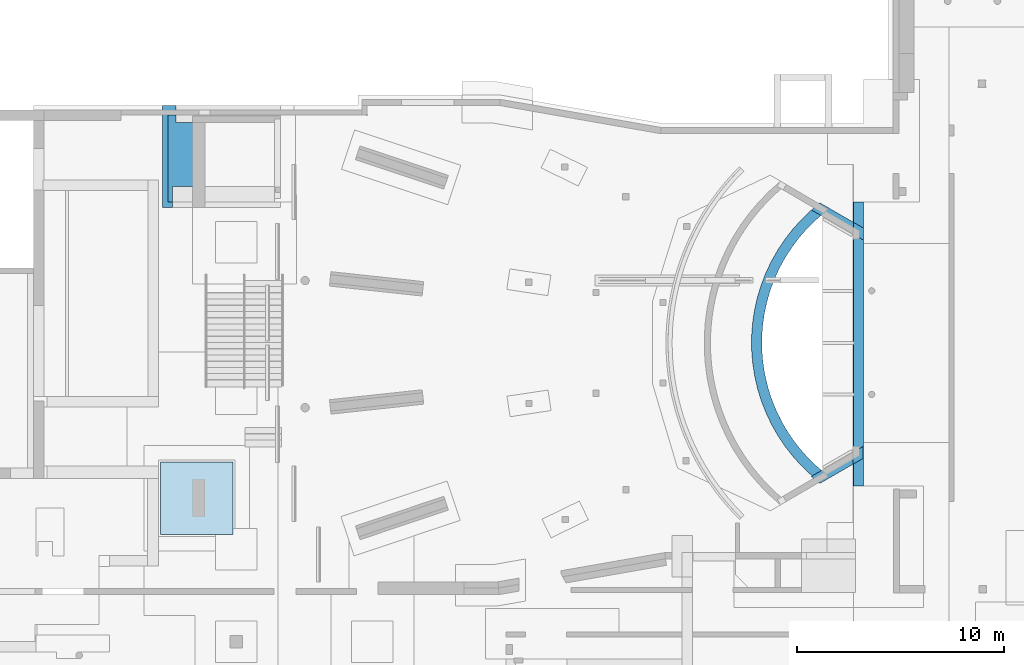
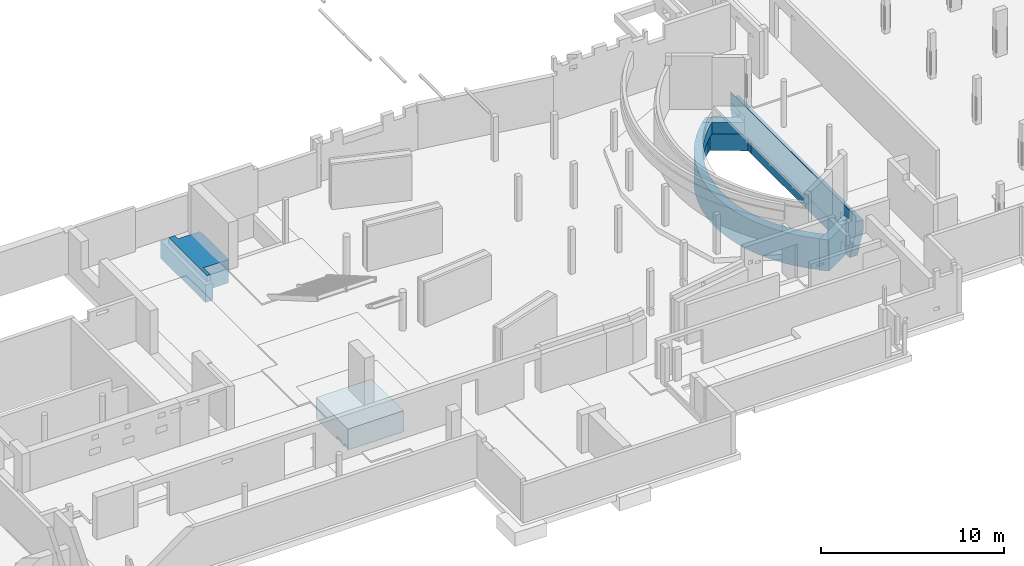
# One storey, part 37 of 42: 6 footings.
"""IFC2X3 building model written with IfcOpenShell, lengths in millimetres."""

import ifcopenshell
import ifcopenshell.guid

model = None  # the IFC model being written
_history = None  # IfcOwnerHistory: only IFC2X3 demands one
_inside = {}  # id of a spatial element -> (the spatial element, [elements in it])
_under = {}  # id of a project, library or spatial element -> (it, [spatial elements below it])
_declared = {}  # id of a project -> (the project, [libraries it declares])
_typed = {}  # id of a type object -> (the type object, [elements of that type])
_made_of = {}  # id of a material, layer set ... -> (it, [elements and type objects made of it])


def new_model(schema):
    """Start an empty IFC model of exactly this schema.

    Asked for "IFC4X3", IfcOpenShell would pick the latest addendum, in which some entities
    have other attributes; the version numbers below select the first issue.
    IFC2X3 requires an IfcOwnerHistory on every rooted entity: one is made here for all.
    """
    global model, _history
    if schema == "IFC4X3":
        model = ifcopenshell.file(schema_version=(4, 3, 0, 0))
    else:
        model = ifcopenshell.file(schema=schema)
    _inside.clear()
    _under.clear()
    _declared.clear()
    _typed.clear()
    _made_of.clear()
    _history = None
    if model.schema == "IFC2X3":
        org = make("IfcOrganization", Name="unknown")
        user = make(
            "IfcPersonAndOrganization",
            ThePerson=make("IfcPerson", FamilyName="unknown"),
            TheOrganization=org,
        )
        app = make(
            "IfcApplication",
            ApplicationDeveloper=org,
            Version="unknown",
            ApplicationFullName="unknown",
            ApplicationIdentifier="unknown",
        )
        _history = make(
            "IfcOwnerHistory",
            OwningUser=user,
            OwningApplication=app,
            ChangeAction="ADDED",
            CreationDate=0,
        )
    return model


def make(cls, **values):
    """One entity of the class cls with the attributes given. An attribute that is None is left unset."""
    return model.create_entity(
        cls, **{name: value for name, value in values.items() if value is not None}
    )


def entity(cls, *values):
    """Any entity or typed value of the class cls, its attributes in the order of the schema. None: left unset."""
    e = model.create_entity(cls)
    for i, value in enumerate(values):
        if value is not None:
            e[i] = value
    return e


def rooted(cls, **values):
    """An entity with a GlobalId (a new one), such as an element, a storey or a relation."""
    return make(cls, GlobalId=ifcopenshell.guid.new(), OwnerHistory=_history, **values)


def si_unit(unit_type, name, prefix=None):
    """IfcSIUnit, for example si_unit("LENGTHUNIT", "METRE", prefix="MILLI")."""
    return make("IfcSIUnit", UnitType=unit_type, Prefix=prefix, Name=name)


def converted_unit(unit_type, name, factor, base, dimensions=None, offset=None):
    """IfcConversionBasedUnit, such as the inch: factor (a typed value) times the base unit."""
    return make(
        "IfcConversionBasedUnit"
        if offset is None
        else "IfcConversionBasedUnitWithOffset",
        ConversionOffset=offset,
        Dimensions=None
        if dimensions is None
        else entity("IfcDimensionalExponents", *dimensions),
        UnitType=unit_type,
        Name=name,
        ConversionFactor=make(
            "IfcMeasureWithUnit", ValueComponent=factor, UnitComponent=base
        ),
    )


def derived_unit(unit_type, elements):
    """IfcDerivedUnit: a product of units, each with its exponent."""
    return make(
        "IfcDerivedUnit",
        Elements=[
            make("IfcDerivedUnitElement", Unit=unit, Exponent=power)
            for unit, power in elements
        ],
        UnitType=unit_type,
    )


def assignment(units):
    """IfcUnitAssignment: the units of a project."""
    return None if units is None else make("IfcUnitAssignment", Units=units)


def point(xyz):
    """IfcCartesianPoint."""
    return None if xyz is None else make("IfcCartesianPoint", Coordinates=xyz)


def direction(xyz):
    """IfcDirection."""
    return None if xyz is None else make("IfcDirection", DirectionRatios=xyz)


def frame(location, z_axis=None, x_axis=None):
    """IfcAxis2Placement3D, a coordinate frame: its origin and axes. An axis left out is left unset."""
    return make(
        "IfcAxis2Placement3D",
        Location=point(location),
        Axis=direction(z_axis),
        RefDirection=direction(x_axis),
    )


def origin():
    """The frame at (0, 0, 0) with its axes left unset."""
    return frame((0.0, 0.0, 0.0))


def place(relative_to, where):
    """IfcLocalPlacement: puts the frame where relative to a parent placement (None: the world)."""
    return make(
        "IfcLocalPlacement", PlacementRelTo=relative_to, RelativePlacement=where
    )


def context(
    kind, dimensions, precision=None, world=None, true_north=None, identifier=None
):
    """IfcGeometricRepresentationContext, for example the 3D "Model" context."""
    return make(
        "IfcGeometricRepresentationContext",
        ContextIdentifier=identifier,
        ContextType=kind,
        CoordinateSpaceDimension=dimensions,
        Precision=precision,
        WorldCoordinateSystem=world,
        TrueNorth=true_north,
    )


def subcontext(parent, identifier, kind, view, scale=None):
    """IfcGeometricRepresentationSubContext, for example "Body" below "Model"."""
    return make(
        "IfcGeometricRepresentationSubContext",
        ContextIdentifier=identifier,
        ContextType=kind,
        ParentContext=parent,
        TargetScale=scale,
        TargetView=view,
    )


def project(units=None, contexts=None):
    """IfcProject with its units and contexts."""
    return rooted(
        "IfcProject",
        Name="project",
        RepresentationContexts=contexts,
        UnitsInContext=assignment(units),
    )


def spatial(cls, under=None, at=None, **own):
    """A site, building, storey or space (cls), placed at a placement, below another one or the project."""
    s = rooted(cls, ObjectPlacement=at, **own)
    if under is not None:
        _under.setdefault(under.id(), (under, []))[1].append(s)
    return s


def faces_of(points, faces, orient=None, outer=None):
    """IfcFace entities. A face is a list of loops; a loop is a list of indices into points, from 0.

    orient and outer hold one flag for each loop. By default every Orientation is true, the
    first loop of a face is its IfcFaceOuterBound and the others are IfcFaceBound.
    """
    made = []
    for i, loops in enumerate(faces):
        bounds = []
        for j, loop in enumerate(loops):
            is_outer = j == 0 if outer is None else outer[i][j]
            bounds.append(
                make(
                    "IfcFaceOuterBound" if is_outer else "IfcFaceBound",
                    Bound=make("IfcPolyLoop", Polygon=[points[k] for k in loop]),
                    Orientation=True if orient is None else orient[i][j],
                )
            )
        made.append(make("IfcFace", Bounds=bounds))
    return made


def faceted_brep(points, faces, orient=None, outer=None, voids=None):
    """IfcFacetedBrep: a solid bounded by flat faces; with voids (closed shells), ...WithVoids."""
    shared = [point(p) for p in points]
    hull = make("IfcClosedShell", CfsFaces=faces_of(shared, faces, orient, outer))
    if voids is None:
        return make("IfcFacetedBrep", Outer=hull)
    return make(
        "IfcFacetedBrepWithVoids",
        Outer=hull,
        Voids=[
            make(cls, CfsFaces=faces_of(shared, fs, o, b)) for cls, fs, o, b in voids
        ],
    )


def shape(context_of_items, identifier, shape_type, items):
    """IfcShapeRepresentation: the items that make up one representation, for example the "Body"."""
    return make(
        "IfcShapeRepresentation",
        ContextOfItems=context_of_items,
        RepresentationIdentifier=identifier,
        RepresentationType=shape_type,
        Items=items,
    )


def source(mapping_origin, context_of_items, identifier, shape_type, items):
    """IfcRepresentationMap: a shape defined once, which mapped items show again and again."""
    return make(
        "IfcRepresentationMap",
        MappingOrigin=mapping_origin,
        MappedRepresentation=shape(context_of_items, identifier, shape_type, items),
    )


def transform(
    local_origin,
    x_axis=None,
    y_axis=None,
    z_axis=None,
    scale=None,
    scale2=None,
    scale3=None,
    uniform=True,
):
    """IfcCartesianTransformationOperator3D, or its non-uniform kind. x_axis, y_axis, z_axis: its Axis1, 2, 3."""
    if uniform:
        return make(
            "IfcCartesianTransformationOperator3D",
            Axis1=direction(x_axis),
            Axis2=direction(y_axis),
            LocalOrigin=point(local_origin),
            Scale=scale,
            Axis3=direction(z_axis),
        )
    return make(
        "IfcCartesianTransformationOperator3DnonUniform",
        Axis1=direction(x_axis),
        Axis2=direction(y_axis),
        LocalOrigin=point(local_origin),
        Scale=scale,
        Axis3=direction(z_axis),
        Scale2=scale2,
        Scale3=scale3,
    )


def mapped(mapping_source, mapping_target):
    """IfcMappedItem: shows the shape of a source again, moved by a transform."""
    return make(
        "IfcMappedItem", MappingSource=mapping_source, MappingTarget=mapping_target
    )


def material(Name=None, Category=None):
    """IfcMaterial."""
    return make("IfcMaterial", Name=Name, Category=Category)


def made_of(thing, what):
    """Note that an element or type object is made of a material, layer set ...; save() writes the relation."""
    if what is not None:
        _made_of.setdefault(what.id(), (what, []))[1].append(thing)
    return thing


def type_object(cls, material=None, **own):
    """A type object (cls), such as IfcWallType, which elements share."""
    return made_of(rooted(cls, **own), material)


def type_shapes(of_type, sources):
    """Give a type object the sources (RepresentationMaps) that its elements show as mapped items."""
    of_type.RepresentationMaps = sources


def element(
    cls,
    number,
    at=None,
    inside=None,
    cuts=None,
    type_object=None,
    material=None,
    context=None,
    identifier="Body",
    shape_type=None,
    held_by="IfcProductDefinitionShape",
    body=None,
    shapes=None,
    **own,
):
    """One element of the class cls, such as IfcWall. Its Tag is "e" and its number.

    at: its placement. inside: the storey or other place that contains it. cuts: it is an
    opening in that element (IfcRelVoidsElement). A single representation is given by context,
    identifier, shape_type and body (its items); several are given by shapes. held_by: the class
    of the entity that holds the representations. save() writes the other relations.
    """
    e = rooted(cls, Tag="e%d" % number, ObjectPlacement=at, **own)
    if body is not None:
        shapes = [shape(context, identifier, shape_type, body)]
    if shapes is not None:
        e.Representation = make(held_by, Representations=shapes)
    if inside is not None:
        _inside.setdefault(inside.id(), (inside, []))[1].append(e)
    if cuts is not None:
        rooted(
            "IfcRelVoidsElement", RelatingBuildingElement=cuts, RelatedOpeningElement=e
        )
    if type_object is not None:
        _typed.setdefault(type_object.id(), (type_object, []))[1].append(e)
    return made_of(e, material)


def aggregate(whole, parts):
    """IfcRelAggregates: a whole, such as a stair, and the parts it consists of."""
    return rooted("IfcRelAggregates", RelatingObject=whole, RelatedObjects=parts)


def save(model, path):
    """Write the relations noted so far, then the file.

    IfcRelAggregates (storeys below a building ...), IfcRelContainedInSpatialStructure (elements
    in a storey), IfcRelDefinesByType, IfcRelAssociatesMaterial and IfcRelDeclares: one each for
    every whole, place, type object, material and project.
    """
    for whole, parts in _under.values():
        aggregate(whole, parts)
    for where, things in _inside.values():
        rooted(
            "IfcRelContainedInSpatialStructure",
            RelatedElements=things,
            RelatingStructure=where,
        )
    for kind, things in _typed.values():
        rooted("IfcRelDefinesByType", RelatedObjects=things, RelatingType=kind)
    for what, things in _made_of.values():
        rooted("IfcRelAssociatesMaterial", RelatedObjects=things, RelatingMaterial=what)
    for by, libraries in _declared.values():
        rooted("IfcRelDeclares", RelatingContext=by, RelatedDefinitions=libraries)
    model.write(path)


model = new_model("IFC2X3")

# Units and contexts
model_context = context("Model", 3, precision=0.01, world=origin(), true_north=direction((6.12303176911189e-17, 1.0)))
body_context = subcontext(model_context, "Body", "Model", "MODEL_VIEW")
ifc_project = project(units=[si_unit("LENGTHUNIT", "METRE", prefix="MILLI"), si_unit("AREAUNIT", "SQUARE_METRE", prefix="MILLI"), si_unit("VOLUMEUNIT", "CUBIC_METRE"), converted_unit("PLANEANGLEUNIT", "DEGREE", entity("IfcRatioMeasure", 0.0174532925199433), si_unit("PLANEANGLEUNIT", "RADIAN"), dimensions=[0, 0, 0, 0, 0, 0, 0]), si_unit("MASSUNIT", "GRAM", prefix="KILO"), derived_unit("MASSDENSITYUNIT", [(si_unit("MASSUNIT", "GRAM", prefix="KILO"), 1), (si_unit("LENGTHUNIT", "METRE"), -3)]), derived_unit("MOMENTOFINERTIAUNIT", [(si_unit("LENGTHUNIT", "METRE"), 4)]), si_unit("TIMEUNIT", "SECOND"), si_unit("FREQUENCYUNIT", "HERTZ"), si_unit("THERMODYNAMICTEMPERATUREUNIT", "DEGREE_CELSIUS"), derived_unit("THERMALTRANSMITTANCEUNIT", [(si_unit("MASSUNIT", "GRAM", prefix="KILO"), 1), (si_unit("THERMODYNAMICTEMPERATUREUNIT", "KELVIN"), -1), (si_unit("TIMEUNIT", "SECOND"), -3)]), derived_unit("VOLUMETRICFLOWRATEUNIT", [(si_unit("LENGTHUNIT", "METRE"), 3), (si_unit("TIMEUNIT", "SECOND"), -1)]), si_unit("ELECTRICCURRENTUNIT", "AMPERE"), si_unit("ELECTRICVOLTAGEUNIT", "VOLT"), si_unit("POWERUNIT", "WATT"), si_unit("FORCEUNIT", "NEWTON", prefix="KILO"), si_unit("ILLUMINANCEUNIT", "LUX"), si_unit("LUMINOUSFLUXUNIT", "LUMEN"), si_unit("LUMINOUSINTENSITYUNIT", "CANDELA"), derived_unit("USERDEFINED", [(si_unit("MASSUNIT", "GRAM", prefix="KILO"), -1), (si_unit("LENGTHUNIT", "METRE"), -2), (si_unit("TIMEUNIT", "SECOND"), 3), (si_unit("LUMINOUSFLUXUNIT", "LUMEN"), 1)]), derived_unit("LINEARVELOCITYUNIT", [(si_unit("LENGTHUNIT", "METRE"), 1), (si_unit("TIMEUNIT", "SECOND"), -1)]), si_unit("PRESSUREUNIT", "PASCAL"), derived_unit("USERDEFINED", [(si_unit("LENGTHUNIT", "METRE"), -2), (si_unit("MASSUNIT", "GRAM", prefix="KILO"), 1), (si_unit("TIMEUNIT", "SECOND"), -2)]), derived_unit("LINEARFORCEUNIT", [(si_unit("MASSUNIT", "GRAM", prefix="KILO"), 1), (si_unit("LENGTHUNIT", "METRE"), 1), (si_unit("TIMEUNIT", "SECOND"), -2), (si_unit("LENGTHUNIT", "METRE"), -1)]), derived_unit("PLANARFORCEUNIT", [(si_unit("MASSUNIT", "GRAM", prefix="KILO"), 1), (si_unit("LENGTHUNIT", "METRE"), 1), (si_unit("TIMEUNIT", "SECOND"), -2), (si_unit("LENGTHUNIT", "METRE"), -2)])], contexts=[model_context])

# Site, building, storey
site_placement = place(None, origin())
site = spatial("IfcSite", under=ifc_project, at=site_placement, Name="Theater aan de Parade", CompositionType="ELEMENT")
building_placement = place(site_placement, origin())
building = spatial("IfcBuilding", under=site, at=building_placement, Name="Theater aan de Parade", CompositionType="ELEMENT")
storey_placement = place(building_placement, frame((0.0, 0.0, -3300.0)))
storey = spatial("IfcBuildingStorey", under=building, at=storey_placement, Name="-1 kelder", CompositionType="ELEMENT", Elevation=-3300.0)

# Footings
ifc_material_1 = material(Name="00_PBT_MAT_beton t.p.g.")
type_product_1 = type_object("IfcTypeProduct", Name="16_PBT_SF_funderingsbalk:500x2480_bestaand", material=ifc_material_1)
shared_shape_1 = source(origin(), body_context, "Body", "Brep", [
    faceted_brep([(3148.72475501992, 470.968927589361, 1300.0), (3143.46430816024, 475.724543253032, 2080.0), (3383.77947811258, 266.795313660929, 2080.0), (2493.44082151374, 1135.98972810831, 1300.0), (2474.80814543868, 1157.31628978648, 2080.0), (2688.62088003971, 921.335531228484, 2080.0), (2703.21451569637, 905.898117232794, 1300.0), (2911.6232041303, 694.019083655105, 2080.0), (2921.75208095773, 684.113302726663, 1300.0), (1919.78917757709, 1872.58544791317, 1300.0), (1891.79557791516, 1913.46754383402, 2080.0), (2076.08187211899, 1653.77278906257, 2080.0), (2101.43336646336, 1619.69714143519, 1300.0), (2270.5213535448, 1401.59013313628, 2080.0), (1435.52696944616, 2670.79545566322, 1300.0), (1402.67229286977, 2733.48387593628, 2080.0), (1554.82574119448, 2453.74805046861, 2080.0), (1586.58541313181, 2398.53011458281, 1300.0), (1717.95237549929, 2180.26586628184, 2080.0), (1748.0871142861, 2132.32665565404, 1300.0), (2292.74649156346, 1374.04207980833, 1300.0), (1165.63256159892, 3231.86533988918, 1300.0), (1132.2247383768, 3309.94707248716, 2080.0), (1261.73138624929, 3019.03328449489, 2080.0), (844.267039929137, 4108.43413783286, 1300.0), (814.25581151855, 4210.26042595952, 2080.0), (908.310829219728, 3906.02949799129, 2080.0), (940.026942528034, 3812.16219354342, 1300.0), (1014.35607882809, 3605.76759743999, 2080.0), (1047.20251300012, 3519.82603705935, 1300.0), (626.834429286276, 5016.38322243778, 1300.0), (605.416071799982, 5141.95476210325, 2080.0), (662.689216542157, 4828.70950550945, 2080.0), (687.552936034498, 4710.99777767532, 1300.0), (732.338985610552, 4517.98178940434, 2080.0), (516.27490398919, 5943.43498226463, 1300.0), (508.659190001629, 6091.85290333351, 2080.0), (528.340433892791, 5774.0236212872, 2080.0), (541.130965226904, 5633.06556708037, 1300.0), (560.609648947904, 5457.22478661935, 2080.0), (578.002625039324, 5323.89331638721, 1300.0), (760.066826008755, 4408.19627916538, 1300.0), (1295.13897205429, 2948.71319303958, 1300.0), (3383.77947811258, 266.795313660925, 1300.0), (503.47182427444, 6254.53476920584, 1300.0), (501.596878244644, 6410.21264896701, 2080.0), (502.740981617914, 6565.89703672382, 1300.0), (507.164608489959, 6728.60203991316, 2080.0), (572.902103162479, 7496.87811477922, 1300.0), (599.461235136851, 7678.94392870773, 2080.0), (556.135305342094, 7363.4670393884, 2080.0), (537.482246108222, 7187.53617925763, 1300.0), (525.353622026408, 7046.52021126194, 2080.0), (514.083475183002, 6877.05349887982, 1300.0), (750.665594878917, 8413.41975051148, 1300.0), (803.924940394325, 8611.60837325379, 2080.0), (723.453580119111, 8303.50585125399, 2080.0), (679.573993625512, 8110.28117680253, 1300.0), (655.263254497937, 7992.45459602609, 2080.0), (1033.62769741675, 9303.12814383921, 1300.0), (1117.66394479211, 9513.40447548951, 2080.0), (1001.18527988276, 9217.03388904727, 2080.0), (927.825669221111, 9010.29207967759, 1300.0), (896.550744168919, 8916.27747960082, 2080.0), (833.457659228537, 8713.57386125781, 1300.0), (620.289775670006, 7804.61405799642, 1300.0), (1417.96213011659, 10153.9723348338, 1300.0), (1536.2409619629, 10371.5779157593, 2080.0), (1385.4023782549, 10091.13090552, 2080.0), (1278.88035527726, 9875.39861699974, 1300.0), (1245.80350390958, 9804.92301225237, 2080.0), (1898.47182908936, 10954.4468871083, 1300.0), (2053.73595625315, 11173.9913402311, 2080.0), (1870.67080019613, 10913.4343358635, 2080.0), (1727.99100561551, 10693.9024962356, 1300.0), (1698.08196775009, 10645.8228660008, 2080.0), (1567.7407682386, 10426.9438105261, 1300.0), (2468.65922076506, 11693.7274653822, 1300.0), (2662.82987121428, 11909.2960224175, 2080.0), (2450.12727743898, 11672.3141444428, 2080.0), (2269.08463398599, 11454.7355884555, 1300.0), (2246.98945235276, 11427.0839915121, 2080.0), (3120.81407425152, 12361.8171976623, 1300.0), (3354.90814478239, 12567.0923709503, 2080.0), (3115.57641734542, 12357.037311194, 2080.0), (2894.84443241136, 12147.6095935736, 1300.0), (2884.76262684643, 12137.656824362, 2080.0), (2677.35044263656, 11924.8013120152, 1300.0), (2078.92683883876, 11208.1851251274, 1300.0), (1150.70461983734, 9591.64163040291, 1300.0), (3354.90814478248, 12567.0923709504, 1300.0), (420.858053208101, 7825.07288220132, 0.0), (373.252061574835, 7512.79231410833, 0.0), (337.666993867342, 7198.91466810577, 0.0), (314.155289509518, 6883.90249900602, 0.0), (302.751596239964, 6568.22003341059, 0.0), (303.472719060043, 6252.3324856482, 0.0), (316.317595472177, 5936.70537225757, 0.0), (341.267297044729, 5621.80382602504, 0.0), (378.285057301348, 5308.09191058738, 0.0), (427.316325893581, 4996.03193660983, 0.0), (488.288848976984, 4686.0837805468, 0.0), (561.112775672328, 4378.70420698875, 0.0), (645.680790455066, 4074.34619559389, 0.0), (741.868271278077, 3773.45827359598, 0.0), (849.533473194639, 3476.48385487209, 0.0), (968.517737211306, 3183.8605865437, 0.0), (1098.64572406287, 2896.01970407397, 0.0), (1239.7256725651, 2613.38539581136, 0.0), (1391.54968216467, 2336.37417791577, 0.0), (1553.89401927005, 2065.39428058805, 0.0), (1726.51944691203, 1800.84504650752, 0.0), (1909.17157724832, 1543.11634236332, 0.0), (2101.58124639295, 1292.58798434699, 0.0), (2303.46491101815, 1049.62917845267, 0.0), (2514.52506614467, 814.597976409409, 0.0), (2734.45068350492, 587.84074804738, 0.0), (2962.91766982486, 369.691670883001, 0.0), (3199.58934022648, 160.472241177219, 0.0), (2924.3567859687, 1.5952722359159, 0.0), (2464.30490748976, 433.841222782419, 0.0), (2037.48445870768, 898.930696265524, 0.0), (1646.2336665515, 1394.31571566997, 0.0), (1292.69585096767, 1917.28238975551, 0.0), (978.807731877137, 2464.96573883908, 0.0), (706.288820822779, 3034.36538907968, 0.0), (476.63200239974, 3622.3620083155, 0.0), (291.095357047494, 4225.73439343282, 0.0), (150.695269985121, 4841.17711567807, 0.0), (56.2008640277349, 5465.31862726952, 0.0), (8.12978677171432, 6094.73973013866, 0.0), (6.74537521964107, 6725.99230564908, 0.0), (52.0552133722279, 7355.61820271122, 0.0), (143.811090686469, 7980.16818084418, 0.0), (281.510361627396, 8596.2208044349, 0.0), (464.398698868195, 9200.40118471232, 0.0), (691.474225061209, 9789.39946678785, 0.0), (961.493000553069, 10359.9889605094, 0.0), (1272.97583699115, 10909.043815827, 0.0), (1624.21639950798, 11433.5561458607, 0.0), (2013.2905531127, 11930.6525038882, 0.0), (2438.06690210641, 12397.6096240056, 0.0), (2896.21842677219, 12831.8693057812, 0.0), (3171.02388846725, 12673.2388744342, 0.0), (2935.31003131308, 12462.9411218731, 0.0), (2707.84149736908, 12243.7512436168, 0.0), (2488.95353990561, 12015.9923034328, 0.0), (2278.96872284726, 11779.9999543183, 0.0), (2078.19648988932, 11536.1219820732, 0.0), (1886.93270827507, 11284.7177925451, 0.0), (1705.45923284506, 11026.1578820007, 0.0), (1534.04349073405, 10760.8232911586, 0.0), (1372.9380873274, 10489.1050436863, 0.0), (1222.38043405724, 10211.4035699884, 0.0), (1082.59239858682, 9928.12811713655, 0.0), (953.77997789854, 9639.6961458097, 0.0), (836.132994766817, 9346.53271513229, 0.0), (729.82481806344, 9049.06985631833, 0.0), (635.012107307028, 8747.74593604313, 0.0), (551.834581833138, 8443.00501048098, 0.0), (480.414814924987, 8135.29617096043, 0.0), (1646.23185683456, 1394.31819010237, 2080.0), (2037.4829122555, 898.932511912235, 2080.0), (1292.6940335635, 1917.2853051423, 2080.0), (2924.35678596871, 1.5952722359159, 2080.0), (2464.30395360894, 433.842187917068, 2080.0), (978.806090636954, 2464.96886534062, 2080.0), (291.094701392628, 4225.73684520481, 2080.0), (150.694915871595, 4841.1789844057, 2080.0), (56.200731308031, 5465.31979426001, 2080.0), (706.287471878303, 3034.36849807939, 2080.0), (476.63100006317, 3622.36488445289, 2080.0), (8.12977140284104, 6094.74012190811, 2080.0), (6.74536098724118, 6725.99189710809, 2080.0), (281.509712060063, 8596.2183320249, 2080.0), (143.810741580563, 7980.1662933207, 2080.0), (464.397702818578, 9200.39828575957, 2080.0), (52.0550839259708, 7355.61701825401, 2080.0), (691.472881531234, 9789.39633269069, 2080.0), (1624.21458494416, 11433.5536418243, 2080.0), (2013.2889957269, 11930.6506590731, 2080.0), (2438.0659299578, 12397.6086317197, 2080.0), (961.4913626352, 10359.9858068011, 2080.0), (1272.97401950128, 10909.0408716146, 2080.0), (2896.21842677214, 12831.8693057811, 2080.0), (1726.51954515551, 1800.8449020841, 1300.0), (1553.89412030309, 2065.39411906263, 1300.0), (1391.54978429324, 2336.37399977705, 1300.0), (1239.72577417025, 2613.3852016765, 1300.0), (1098.64582360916, 2896.0194946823, 1300.0), (968.517833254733, 3183.86036274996, 1300.0), (849.533564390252, 3476.48361763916, 1300.0), (741.868356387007, 3773.45802398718, 1300.0), (645.680868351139, 4074.34593476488, 1300.0), (561.112845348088, 4378.70393617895, 1300.0), (488.288909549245, 4686.08350107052, 1300.0), (427.316376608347, 4996.03164984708, 1300.0), (378.28509753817, 5308.09161797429, 1300.0), (341.267326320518, 5621.80352904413, 1300.0), (316.317613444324, 5936.70507242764, 1300.0), (303.472725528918, 6252.33218451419, 1300.0), (302.751591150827, 6568.21973253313, 1300.0), (314.15527295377, 6883.90219995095, 1300.0), (337.666966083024, 7198.91437243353, 1300.0), (373.252022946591, 7512.79202336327, 1300.0), (420.858004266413, 7825.07259790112, 1300.0), (480.414756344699, 8135.29589458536, 1300.0), (551.834514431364, 8443.00474346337, 1300.0), (635.012032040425, 8747.7456797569, 1300.0), (729.824736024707, 9049.06961206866, 1300.0), (836.132907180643, 9346.53248414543, 1300.0), (953.779886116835, 9639.69592922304, 1300.0), (1082.59230408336, 9928.12791598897, 1300.0), (1222.38033842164, 10211.4033852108, 1300.0), (1372.93799225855, 10489.1048760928, 1300.0), (1534.0433980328, 10760.8231414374, 1300.0), (1705.45914440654, 11026.1577507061, 1300.0), (1886.93262608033, 11284.7176800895, 1300.0), (2078.19641599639, 11536.1218887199, 1300.0), (2278.96865938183, 11779.9998801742, 1300.0), (2488.95348905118, 12015.9922484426, 1300.0), (2707.8414613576, 12243.7512075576, 1300.0), (2935.31001240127, 12462.941104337, 1300.0), (3171.02388846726, 12673.2388744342, 1300.0), (3199.58934022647, 160.472241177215, 1300.0), (2962.91771571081, 369.691628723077, 1300.0), (2734.45074039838, 587.840691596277, 1300.0), (2514.52513510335, 814.597902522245, 1300.0), (2303.46499011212, 1049.62908689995, 1300.0), (2101.58133371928, 1292.58787505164, 1300.0), (1909.17167094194, 1543.11621539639, 1300.0)], [[[0, 1, 2]], [[3, 4, 5]], [[6, 5, 7]], [[8, 7, 1]], [[9, 10, 11]], [[12, 11, 13]], [[14, 15, 16]], [[17, 16, 18]], [[19, 18, 10]], [[20, 13, 4]], [[21, 22, 23]], [[24, 25, 26]], [[27, 26, 28]], [[29, 28, 22]], [[30, 31, 32]], [[33, 32, 34]], [[35, 36, 37]], [[38, 37, 39]], [[40, 39, 31]], [[41, 34, 25]], [[42, 23, 15]], [[0, 2, 43]], [[1, 0, 8]], [[8, 6, 7]], [[5, 6, 3]], [[4, 3, 20]], [[13, 20, 12]], [[9, 11, 12]], [[10, 9, 19]], [[18, 19, 17]], [[16, 17, 14]], [[15, 14, 42]], [[23, 42, 21]], [[29, 22, 21]], [[28, 29, 27]], [[24, 26, 27]], [[41, 25, 24]], [[33, 34, 41]], [[33, 30, 32]], [[40, 31, 30]], [[38, 39, 40]], [[37, 38, 35]], [[35, 44, 36]], [[44, 45, 36]], [[46, 47, 45]], [[48, 49, 50]], [[51, 50, 52]], [[53, 52, 47]], [[54, 55, 56]], [[57, 56, 58]], [[59, 60, 61]], [[62, 61, 63]], [[64, 63, 55]], [[65, 58, 49]], [[66, 67, 68]], [[69, 68, 70]], [[71, 72, 73]], [[74, 73, 75]], [[76, 75, 67]], [[77, 78, 79]], [[80, 79, 81]], [[82, 83, 84]], [[85, 84, 86]], [[87, 86, 78]], [[88, 81, 72]], [[89, 70, 60]], [[53, 47, 46]], [[52, 53, 51]], [[51, 48, 50]], [[49, 48, 65]], [[58, 65, 57]], [[56, 57, 54]], [[64, 55, 54]], [[63, 64, 62]], [[61, 62, 59]], [[60, 59, 89]], [[70, 89, 69]], [[68, 69, 66]], [[76, 67, 66]], [[75, 76, 74]], [[71, 73, 74]], [[88, 72, 71]], [[80, 81, 88]], [[80, 77, 79]], [[87, 78, 77]], [[85, 86, 87]], [[84, 85, 82]], [[82, 90, 83]], [[44, 46, 45]], [[91, 92, 93, 94, 95, 96, 97, 98, 99, 100, 101, 102, 103, 104, 105, 106, 107, 108, 109, 110, 111, 112, 113, 114, 115, 116, 117, 118, 119, 120, 121, 122, 123, 124, 125, 126, 127, 128, 129, 130, 131, 132, 133, 134, 135, 136, 137, 138, 139, 140, 141, 142, 143, 144, 145, 146, 147, 148, 149, 150, 151, 152, 153, 154, 155, 156, 157, 158, 159, 160]], [[161, 122, 162]], [[163, 123, 161]], [[120, 164, 165]], [[162, 121, 165]], [[124, 163, 166]], [[128, 167, 168]], [[129, 168, 169]], [[126, 170, 171]], [[127, 171, 167]], [[170, 125, 166]], [[130, 169, 172]], [[164, 120, 119]], [[165, 121, 120]], [[122, 121, 162]], [[161, 123, 122]], [[124, 123, 163]], [[125, 124, 166]], [[126, 125, 170]], [[126, 171, 127]], [[128, 127, 167]], [[129, 128, 168]], [[169, 130, 129]], [[172, 173, 131, 130]], [[174, 133, 175]], [[176, 134, 174]], [[131, 173, 177]], [[175, 132, 177]], [[135, 176, 178]], [[139, 179, 180]], [[140, 180, 181]], [[137, 182, 183]], [[138, 183, 179]], [[182, 136, 178]], [[141, 181, 184]], [[177, 132, 131]], [[175, 133, 132]], [[134, 133, 174]], [[176, 135, 134]], [[136, 135, 178]], [[137, 136, 182]], [[138, 137, 183]], [[138, 179, 139]], [[140, 139, 180]], [[141, 140, 181]], [[184, 142, 141]], [[171, 170, 166, 163, 161, 162, 165, 164, 2, 1, 7, 5, 4, 13, 11, 10, 18, 16, 15, 23, 22, 28, 26, 25, 34, 32, 31, 39, 37, 36, 45, 47, 52, 50, 49, 58, 56, 55, 63, 61, 60, 70, 68, 67, 75, 73, 72, 81, 79, 78, 86, 84, 83, 184, 181, 180, 179, 183, 182, 178, 176, 174, 175, 177, 173, 172, 169, 168, 167]], [[185, 186, 187, 188, 189, 190, 191, 192, 193, 194, 195, 196, 197, 198, 199, 200, 201, 202, 203, 204, 205, 206, 207, 208, 209, 210, 211, 212, 213, 214, 215, 216, 217, 218, 219, 220, 221, 222, 223, 90, 82, 85, 87, 77, 80, 88, 71, 74, 76, 66, 69, 89, 59, 62, 64, 54, 57, 65, 48, 51, 53, 46, 44, 35, 38, 40, 30, 33, 41, 24, 27, 29, 21, 42, 14, 17, 19, 9, 12, 20, 3, 6, 8, 0, 43, 224, 225, 226, 227, 228, 229, 230]], [[229, 113, 230]], [[185, 111, 186]], [[185, 230, 112]], [[186, 110, 187]], [[225, 224, 118]], [[225, 117, 226]], [[228, 227, 115]], [[116, 227, 226]], [[228, 114, 229]], [[188, 187, 109]], [[195, 194, 102]], [[195, 101, 196]], [[198, 197, 99]], [[100, 197, 196]], [[199, 198, 98]], [[190, 189, 107]], [[191, 190, 106]], [[104, 193, 192]], [[191, 105, 192]], [[194, 193, 103]], [[188, 108, 189]], [[200, 199, 97]], [[185, 112, 111]], [[187, 110, 109]], [[188, 109, 108]], [[110, 186, 111]], [[225, 118, 117]], [[226, 117, 116]], [[228, 115, 114]], [[229, 114, 113]], [[115, 227, 116]], [[230, 113, 112]], [[196, 101, 100]], [[197, 100, 99]], [[199, 98, 97]], [[200, 97, 96]], [[98, 198, 99]], [[190, 107, 106]], [[191, 106, 105]], [[193, 104, 103]], [[194, 103, 102]], [[104, 192, 105]], [[195, 102, 101]], [[107, 189, 108]], [[96, 201, 200]], [[206, 160, 207]], [[208, 158, 209]], [[208, 207, 159]], [[209, 157, 210]], [[202, 201, 95]], [[202, 94, 203]], [[205, 204, 92]], [[93, 204, 203]], [[205, 91, 206]], [[211, 210, 156]], [[218, 217, 149]], [[218, 148, 219]], [[221, 220, 146]], [[147, 220, 219]], [[222, 221, 145]], [[213, 212, 154]], [[214, 213, 153]], [[151, 216, 215]], [[214, 152, 215]], [[217, 216, 150]], [[211, 155, 212]], [[223, 222, 144]], [[208, 159, 158]], [[210, 157, 156]], [[211, 156, 155]], [[157, 209, 158]], [[202, 95, 94]], [[203, 94, 93]], [[205, 92, 91]], [[206, 91, 160]], [[92, 204, 93]], [[207, 160, 159]], [[219, 148, 147]], [[220, 147, 146]], [[222, 145, 144]], [[223, 144, 143]], [[145, 221, 146]], [[213, 154, 153]], [[214, 153, 152]], [[216, 151, 150]], [[217, 150, 149]], [[151, 215, 152]], [[218, 149, 148]], [[154, 212, 155]], [[96, 95, 201]], [[43, 2, 164, 119, 118, 224]], [[223, 143, 142, 184, 83, 90]]]),
])
type_shapes(type_product_1, [shared_shape_1])
footing_1_placement = place(storey_placement, frame((63816.389453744, 26036.389092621, -2520.0)))
element("IfcFooting", 1, at=footing_1_placement, inside=storey, type_object=type_product_1, material=ifc_material_1, Name="16_PBT_SF_funderingsbalk:500x2480_bestaand", ObjectType="16_PBT_SF_funderingsbalk:500x2480_bestaand", context=body_context, shape_type="MappedRepresentation", body=[
    mapped(shared_shape_1, transform((0.0, 0.0, 0.0), scale=1.0)),
])
type_product_2 = type_object("IfcTypeProduct", Name="16_PBT_SF_funderingsbalk:500x2480_bestaand", material=ifc_material_1)
shared_shape_2 = source(origin(), body_context, "Body", "Brep", [
    faceted_brep([(2509.2782844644, 1785.49821796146, 2480.0), (2017.93775846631, 1501.87372557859, 2480.0), (2009.27828446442, 1496.87507639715, 2480.0), (2009.27828446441, 919.550801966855, 2480.0), (2017.93775846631, 924.549451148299, 2480.0), (2509.2782844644, 1208.17394353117, 2480.0), (2009.27828446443, 919.55080196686, 2080.0), (419.046252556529, 1.59527223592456, 2080.0), (419.046252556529, 1.59527223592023, 0.0), (2017.93775846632, 924.549451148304, 0.0), (2509.2782844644, 1208.17394353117, 0.0), (2317.93775846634, 1308.65304585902, 0.0), (2317.93775846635, 1675.0476105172, 0.0), (2509.2782844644, 1785.49821796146, 0.0), (207.652681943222, 166.460008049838, 0.0), (1.5952722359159, 337.947519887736, 0.0), (38.6839981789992, 359.356849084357, 0.0), (313.916552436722, 518.233818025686, 0.0), (450.344050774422, 404.73113632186, 0.0), (589.187608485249, 294.197035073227, 0.0), (2317.93775846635, 1675.0476105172, 1300.0), (2017.93775846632, 1501.87372557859, 1300.0), (498.106690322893, 624.55689050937, 1300.0), (313.916552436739, 518.233818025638, 1300.0), (1.59527223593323, 337.947519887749, 2080.0), (38.6839981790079, 359.356849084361, 2080.0), (498.106690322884, 624.556890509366, 2080.0), (2009.27828446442, 1496.87507639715, 2080.0), (450.331270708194, 404.741537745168, 1300.0), (2317.93775846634, 1308.65304585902, 1300.0), (589.187608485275, 294.197035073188, 1300.0), (207.652681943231, 166.460008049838, 2080.0)], [[[0, 1, 2, 3, 4, 5]], [[6, 7, 8, 9, 10, 5, 4, 3]], [[11, 12, 13, 10, 9, 8, 14, 15, 16, 17, 18, 19]], [[13, 12, 20, 21, 22, 23, 17, 16, 15, 24, 25, 26, 27, 2, 1, 0]], [[28, 23, 22, 21, 20, 29, 30]], [[20, 12, 11, 29]], [[29, 11, 19, 30]], [[18, 30, 19]], [[28, 30, 18]], [[17, 23, 28]], [[18, 17, 28]], [[13, 0, 5, 10]], [[7, 31, 14, 8]], [[14, 31, 24, 15]], [[31, 7, 6, 27, 26, 25, 24]], [[2, 27, 6, 3]]]),
])
type_shapes(type_product_2, [shared_shape_2])
footing_2_placement = place(storey_placement, frame((66702.0622415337, 25678.6275157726, -2520.0)))
element("IfcFooting", 2, at=footing_2_placement, inside=storey, type_object=type_product_2, material=ifc_material_1, Name="16_PBT_SF_funderingsbalk:500x2480_bestaand", ObjectType="16_PBT_SF_funderingsbalk:500x2480_bestaand", context=body_context, shape_type="MappedRepresentation", body=[
    mapped(shared_shape_2, transform((0.0, 0.0, 0.0), scale=1.0)),
])
type_product_3 = type_object("IfcTypeProduct", Name="16_PBT_SF_funderingsbalk:500x2480_bestaand", material=ifc_material_1)
shared_shape_3 = source(origin(), body_context, "Body", "Brep", [
    faceted_brep([(2030.63607672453, 276.126518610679, 2480.0), (2508.98739171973, 0.0, 2480.0), (2508.98739171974, 577.324274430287, 2480.0), (2030.63607672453, 853.450793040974, 2480.0), (2030.63607672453, 853.450793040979, 2080.0), (2508.98739171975, 577.324274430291, 0.0), (2008.98739171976, 865.947415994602, 0.0), (413.049653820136, 1787.1965433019, 0.0), (413.049653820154, 1787.1965433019, 2080.0), (2008.98739171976, 865.947415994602, 2080.0), (2308.98739171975, 411.843821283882, 0.0), (523.423559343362, 1492.55390681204, 0.0), (398.920612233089, 1391.85494271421, 0.0), (276.400733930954, 1288.75234997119, 0.0), (1.5952722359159, 1447.38278131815, 0.0), (204.664057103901, 1620.50852183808, 0.0), (2508.98739171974, 0.0, 0.0), (2308.98739171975, 115.449256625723, 0.0), (2308.98739171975, 115.449256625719, 1300.0), (2030.63607672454, 276.126518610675, 2080.0), (460.284990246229, 1182.60584648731, 2080.0), (1.59527223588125, 1447.38278131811, 2080.0), (276.400733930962, 1288.75234997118, 1300.0), (460.284990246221, 1182.60584648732, 1300.0), (2008.98739171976, 288.623141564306, 1300.0), (398.908668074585, 1391.84508839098, 1300.0), (523.423559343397, 1492.55390681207, 1300.0), (2308.98739171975, 411.843821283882, 1300.0), (204.664057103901, 1620.50852183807, 2080.0)], [[[0, 1, 2, 3]], [[4, 3, 2, 5, 6, 7, 8, 9]], [[10, 11, 12, 13, 14, 15, 7, 6, 5, 16, 17]], [[18, 17, 16, 1, 0, 19, 20, 21, 14, 13, 22, 23, 24]], [[25, 26, 27, 18, 24, 23, 22]], [[27, 10, 17, 18]], [[25, 22, 13]], [[12, 25, 13]], [[11, 26, 12]], [[25, 12, 26]], [[26, 11, 10, 27]], [[16, 5, 2, 1]], [[21, 28, 15, 14]], [[15, 28, 8, 7]], [[4, 9, 8, 28, 21, 20, 19]], [[0, 3, 4, 19]]]),
])
type_shapes(type_product_3, [shared_shape_3])
footing_3_placement = place(storey_placement, frame((66711.0126082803, 37420.8756170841, -2520.0)))
element("IfcFooting", 3, at=footing_3_placement, inside=storey, type_object=type_product_3, material=ifc_material_1, Name="16_PBT_SF_funderingsbalk:500x2480_bestaand", ObjectType="16_PBT_SF_funderingsbalk:500x2480_bestaand", context=body_context, shape_type="MappedRepresentation", body=[
    mapped(shared_shape_3, transform((0.0, 0.0, 0.0), scale=1.0)),
])
type_product_4 = type_object("IfcTypeProduct", Name="16_PBT_SF_funderingsbalk:500x3180_bestaand", material=ifc_material_1)
shared_shape_4 = source(origin(), body_context, "Body", "Brep", [
    faceted_brep([(500.0, 0.0, 2780.0), (30.0, 0.0, 2780.0), (30.0, 0.0, 3180.0), (0.0, 0.0, 3180.0), (0.0, 0.0, 2080.0), (500.0, 0.0, 2080.0), (30.0, 13700.0, 2780.0), (500.0, 13700.0, 2780.0), (500.0, 13700.0, 2080.0), (21.6486850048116, 13700.0, 2080.0), (21.6486850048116, 13700.0, 2480.0), (0.0, 13700.0, 2480.0), (0.0, 13700.0, 3180.0), (30.0, 13700.0, 3180.0), (0.0, 12495.8933233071, 3180.0), (0.0, 12149.4987586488, 3180.0), (0.0, 11905.4466493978, 3180.0), (0.0, 1905.44664939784, 3180.0), (0.0, 1620.50124135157, 3180.0), (0.0, 1274.10667669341, 3180.0), (0.0, 12495.893323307, 2480.0), (0.0, 12149.4987586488, 2480.0), (0.0, 12149.4987586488, 1300.0), (0.0, 1620.50124135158, 1300.0), (0.0, 1620.50124135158, 2480.0), (0.0, 1274.1066766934, 2480.0), (0.0, 1043.17696692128, 2480.0), (0.0, 1043.17696692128, 0.0), (0.0, 650.176966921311, 0.0), (500.0, 650.176966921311, 0.0), (491.34052599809, 1326.80145930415, 0.0), (491.340525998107, 1904.12573373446, 0.0), (300.0, 1793.67512629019, 0.0), (300.0, 11976.3248737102, 0.0), (500.0, 11860.8756170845, 0.0), (500.0, 11860.8756170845, 2480.0), (500.0, 12438.1998915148, 2480.0), (500.0, 12438.1998915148, 0.0), (500.0, 13049.8230330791, 0.0), (300.0, 1793.67512629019, 1300.0), (300.0, 11976.3248737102, 1300.0), (491.34052599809, 1904.12573373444, 2480.0), (491.34052599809, 1326.80145930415, 2480.0), (0.0, 13700.0, 2080.0), (0.0, 12726.8230330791, 2080.0), (21.6486850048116, 12714.3264101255, 2080.0), (21.6486850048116, 12714.3264101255, 2480.0), (21.6486850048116, 12137.0021356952, 2480.0), (0.0, 12726.8230330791, 0.0), (0.0, 13049.8230330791, 0.0)], [[[0, 1, 2, 3, 4, 5]], [[6, 7, 8, 9, 10, 11, 12, 13]], [[12, 14, 15, 16, 17, 18, 19, 3, 2, 13]], [[3, 19, 18, 17, 16, 15, 14, 12, 11, 20, 21, 22, 23, 24, 25, 26, 27, 28, 4]], [[29, 28, 27, 30, 31, 32, 33, 34]], [[7, 0, 5, 29, 34, 35, 36, 37, 38, 8]], [[0, 7, 6, 1]], [[39, 23, 22, 40]], [[26, 25, 24, 41, 42]], [[24, 23, 39, 32, 31, 41]], [[27, 26, 42, 30]], [[32, 39, 40, 33]], [[13, 2, 1, 6]], [[9, 43, 44, 45]], [[11, 10, 46, 36, 35, 47, 21, 20]], [[42, 41, 31, 30]], [[10, 9, 45, 46]], [[21, 47, 35, 34, 33, 40, 22]], [[36, 46, 45, 44, 48, 37]], [[49, 43, 9, 8, 38]], [[5, 4, 28, 29]], [[43, 49, 48, 44]], [[49, 38, 37, 48]]]),
])
type_shapes(type_product_4, [shared_shape_4])
footing_4_placement = place(storey_placement, frame((68720.0, 25560.0, -2520.0)))
element("IfcFooting", 4, at=footing_4_placement, inside=storey, type_object=type_product_4, material=ifc_material_1, Name="16_PBT_SF_funderingsbalk:500x3180_bestaand", ObjectType="16_PBT_SF_funderingsbalk:500x3180_bestaand", context=body_context, shape_type="MappedRepresentation", body=[
    mapped(shared_shape_4, transform((0.0, 0.0, 0.0), scale=1.0)),
])
ifc_material_2 = material(Name="00_PBT_MAT_beton t.p.g._C30/37")
type_product_5 = type_object("IfcTypeProduct", Name="16_PBT_SFO_beton_poer:C30/37_3500x3500x1600", material=ifc_material_2)
shared_shape_5 = source(origin(), body_context, "Body", "Brep", [
    faceted_brep([(1.58749999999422, 3380.99245940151, 0.0), (1.58749999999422, 3500.0, 0.0), (3501.5875, 3500.0, 0.0), (3501.5875, 0.0, 0.0), (1.58749999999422, 0.0, 0.0), (1.58749999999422, 55.0075405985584, 0.0), (26.3394442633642, 121.636446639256, 0.0), (41.3935602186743, 191.101858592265, 0.0), (46.4456300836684, 262.0, 0.0), (41.3935602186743, 332.898141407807, 0.0), (26.3394442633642, 402.363553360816, 0.0), (1.58749999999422, 468.992459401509, 0.0), (1.58749999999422, 783.007540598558, 0.0), (26.3394442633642, 849.636446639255, 0.0), (41.3935602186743, 919.101858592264, 0.0), (46.4456300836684, 990.0, 0.0), (41.3935602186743, 1060.89814140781, 0.0), (26.3394442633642, 1130.36355336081, 0.0), (1.58749999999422, 1196.99245940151, 0.0), (1.58749999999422, 1511.00754059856, 0.0), (1.58749999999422, 1924.99245940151, 0.0), (1.58749999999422, 2239.00754059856, 0.0), (1.58749999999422, 2652.99245940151, 0.0), (1.58749999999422, 2967.00754059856, 0.0), (1.58749999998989, 3500.0, 1400.0), (3501.58749999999, 3500.0, 1400.0), (1.58749999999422, 1196.99245940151, 200.0), (1.58749999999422, 783.007540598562, 200.0), (1.58749999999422, 468.992459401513, 200.0), (1.58749999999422, 55.0075405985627, 200.0), (1.58749999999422, 0.0, 1400.0), (2661.58749999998, 0.0, 1400.0), (3501.5875, 0.0, 900.0), (3501.5875, 0.0, 1400.0), (3501.58749999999, 277.632596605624, 1400.0), (46.4456300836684, 990.0, 200.0), (41.3920964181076, 1060.90835961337, 200.0), (26.3377869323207, 1130.36921954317, 200.0), (26.3377869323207, 849.630780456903, 200.0), (41.3920964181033, 919.091640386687, 200.0), (46.4456300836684, 262.0, 200.0), (41.3920964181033, 191.091640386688, 200.0), (26.3377869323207, 121.630780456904, 200.0), (26.3377869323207, 402.369219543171, 200.0), (41.3920964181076, 332.908359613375, 200.0)], [[[0, 1, 2, 3, 4, 5, 6, 7, 8, 9, 10, 11, 12, 13, 14, 15, 16, 17, 18, 19, 20, 21, 22, 23]], [[24, 25, 2, 1]], [[26, 27, 12, 11, 28, 29, 5, 4, 30, 24, 1, 0, 23, 22, 21, 20, 19, 18]], [[31, 30, 4, 3, 32, 33]], [[34, 33, 32, 3, 2, 25]], [[31, 33, 34, 25, 24, 30]], [[35, 16, 15]], [[16, 35, 36]], [[36, 17, 16]], [[37, 18, 17]], [[18, 37, 26]], [[36, 37, 17]], [[38, 13, 12]], [[12, 27, 38]], [[38, 39, 13]], [[35, 15, 14]], [[14, 39, 35]], [[13, 39, 14]], [[35, 39, 38, 27, 26, 37, 36]], [[40, 41, 42, 29, 28, 43, 44]], [[40, 9, 8]], [[9, 40, 44]], [[44, 10, 9]], [[43, 11, 10]], [[11, 43, 28]], [[44, 43, 10]], [[42, 6, 5]], [[5, 29, 42]], [[42, 41, 6]], [[40, 8, 7]], [[7, 41, 40]], [[6, 41, 7]]]),
])
type_shapes(type_product_5, [shared_shape_5])
footing_5_placement = place(storey_placement, frame((35303.4125000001, 23212.3674033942, -1840.0)))
element("IfcFooting", 5, at=footing_5_placement, inside=storey, type_object=type_product_5, material=ifc_material_2, Name="16_PBT_SFO_beton_poer:C30/37_3500x3500x1600", ObjectType="16_PBT_SFO_beton_poer:C30/37_3500x3500x1600", context=body_context, shape_type="MappedRepresentation", body=[
    mapped(shared_shape_5, transform((0.0, 0.0, 0.0), scale=1.0)),
])
type_product_6 = type_object("IfcTypeProduct", Name="16_PBT_SF_funderingsbalk enkele sponning:C30/37_2050x2060/250x400", material=ifc_material_2)
shared_shape_6 = source(origin(), body_context, "Body", "Brep", [
    faceted_brep([(250.0, 250.0, 1160.0), (250.0, 250.0, 1560.0), (250.0, 4450.0, 1560.0), (250.0, 4450.0, 1160.0), (0.0, 0.0, 1160.0), (470.935178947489, 0.0, 1160.0), (470.935178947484, 250.0, 1160.0), (639.999997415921, 4450.0, 1160.0), (639.999997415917, 4900.0, 1160.0), (0.0, 4900.0, 1160.0), (0.0, 4809.29750456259, 1160.0), (470.935178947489, 250.0, 1560.0), (470.935178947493, 1000.0, 1560.0), (2050.0, 1000.0, 1560.0), (2050.0, 4100.0, 1560.0), (1450.0, 4100.0, 1560.0), (639.999997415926, 4100.0, 1560.0), (639.999997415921, 4450.0, 1560.0), (2050.0, 1000.0, 0.0), (2050.0, 4100.0, 0.0), (0.0, 4900.0, 0.0), (0.0, 0.0, 0.0), (470.935178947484, 1000.0, 0.0), (470.935178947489, 0.0, 0.0), (639.999997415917, 4900.0, 0.0), (639.999997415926, 4100.0, 0.0)], [[[0, 1, 2, 3]], [[4, 5, 6, 0, 3, 7, 8, 9, 10]], [[2, 1, 11, 12, 13, 14, 15, 16, 17]], [[14, 13, 18, 19]], [[4, 10, 9, 20, 21]], [[13, 12, 22, 18]], [[1, 0, 6, 11]], [[5, 4, 21, 23]], [[6, 5, 23, 22, 12, 11]], [[3, 2, 17, 7]], [[9, 8, 24, 20]], [[8, 7, 17, 16, 25, 24]], [[16, 15, 14, 19, 25]], [[19, 18, 22, 23, 21, 20, 24, 25]]]),
])
type_shapes(type_product_6, [shared_shape_6])
footing_6_placement = place(storey_placement, frame((35403.8581300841, 39000.0, -1600.0)))
element("IfcFooting", 6, at=footing_6_placement, inside=storey, type_object=type_product_6, material=ifc_material_2, Name="16_PBT_SF_funderingsbalk enkele sponning:C30/37_2050x2060/250x400", ObjectType="16_PBT_SF_funderingsbalk enkele sponning:C30/37_2050x2060/250x400", context=body_context, shape_type="MappedRepresentation", body=[
    mapped(shared_shape_6, transform((0.0, 0.0, 0.0), scale=1.0)),
])

save(model, "model.ifc")
